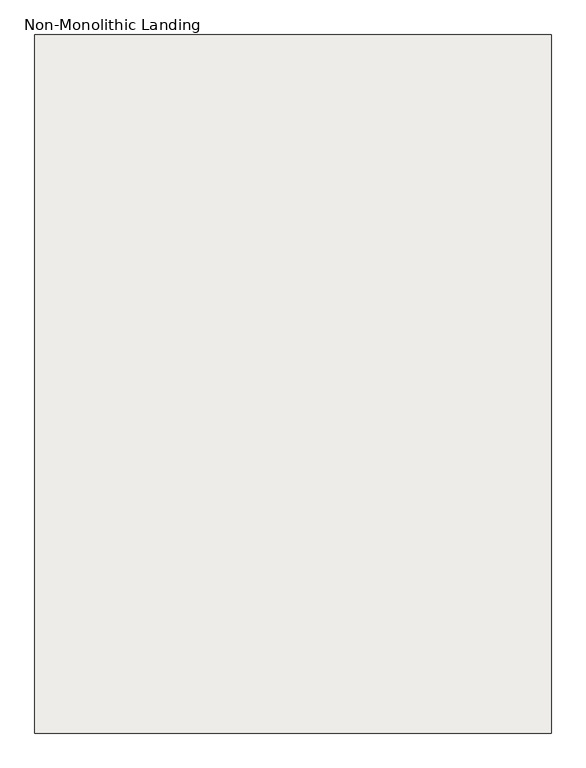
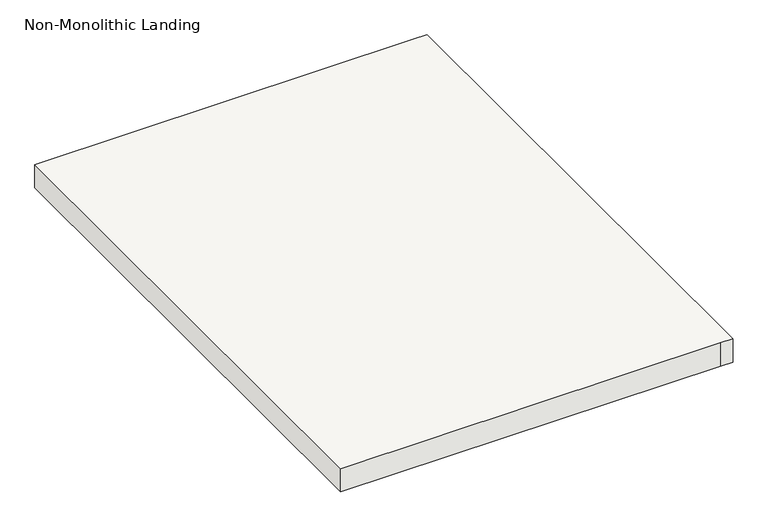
"""IFC4 building model written with IfcOpenShell, lengths in millimetres: slab geometry, Non-Monolithic Landing."""

from ifc_helpers import new_model, si_unit, frame, origin, place, context, project, spatial, polyline, outline, extrude, source, transform, mapped, element, save


def non_monolithic_landing_16e06536(model_context):
    return source(origin(), model_context, "Body", "SweptSolid", [
        extrude(outline(polyline([(-15652.4813244, -17453.1578387), (-14865.0813244, -17453.1578387), (-14839.6813244, -17453.1578387), (-14839.6813244, -18551.5554387), (-14865.0813244, -18551.5554387), (-15652.4813244, -18551.5554387), (-15652.4813244, -17453.1578387)])), frame((0.0, 0.0, 1690.9142857), z_axis=(0.0, 0.0, 1.0), x_axis=(1.0, 0.0, 0.0)), (0.0, 0.0, 1.0), 50.8),
    ])


if __name__ == "__main__":
    model = new_model("IFC4")
    model_context = context("Model", 3, world=origin())
    ifc_project = project(units=[si_unit("LENGTHUNIT", "METRE", prefix="MILLI")], contexts=[model_context])
    site = spatial("IfcSite", under=ifc_project)
    building = spatial("IfcBuilding", under=site)
    placement = place(None, origin())
    non_monolithic_landing_shape = non_monolithic_landing_16e06536(model_context)
    element("IfcSlab", 1, ObjectType="Non-Monolithic Landing", at=placement, inside=building, context=model_context, shape_type="MappedRepresentation", body=[
        mapped(non_monolithic_landing_shape, transform((0.0, 0.0, 0.0), x_axis=(1.0, 0.0, 0.0), y_axis=(0.0, 1.0, 0.0), z_axis=(0.0, 0.0, 1.0))),
    ])
    save(model, "model.ifc")
